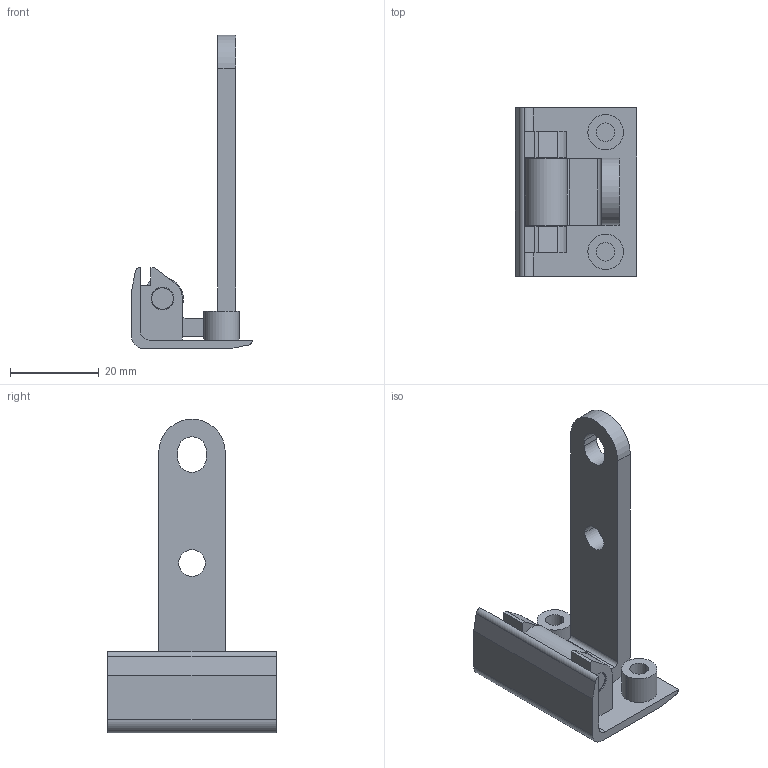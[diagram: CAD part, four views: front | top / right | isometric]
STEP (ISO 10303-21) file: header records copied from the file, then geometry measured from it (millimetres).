
FILE_DESCRIPTION(/* description */ (''),/* implementation_level */ '2;1');
FILE_NAME(/* name */ 'JL016-2',/* time_stamp */ '2024-10-19T08:24:20+08:00',/* author */ (''),/* organization */ (''),/* preprocessor_version */ 'ST-DEVELOPER v19.2',/* originating_system */ 'Rhino 8.5',/* authorisation */ '');
FILE_SCHEMA (('CONFIG_CONTROL_DESIGN'));
Length unit declared in the file: millimetre
Products named in the file (1): Document
Bounding box: 27.36 x 38 x 70.86 mm (x, y, z)
Volume: 10432 mm3; surface area: 8918.3 mm2
Topology: 3 solids, 3 shells, 272 faces, 716 edges, 454 vertices
Faces by surface type: cylinder 165, plane 105, bspline 2
Entity records: 9548 total; most frequent: CARTESIAN_POINT 2664, ORIENTED_EDGE 1432, DIRECTION 1198, AXIS2_PLACEMENT_3D 734, EDGE_CURVE 716, TRIMMED_CURVE 462, CIRCLE 462, VERTEX_POINT 454
